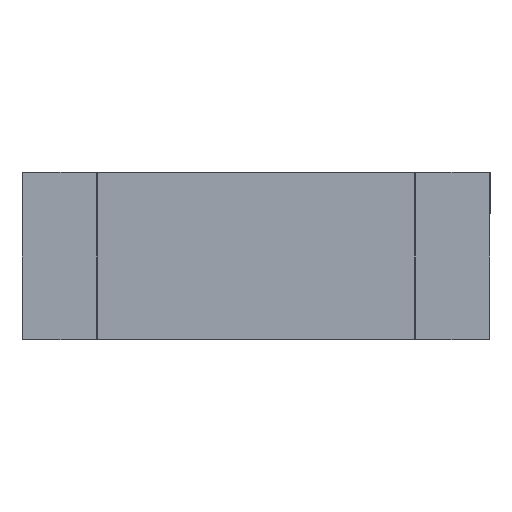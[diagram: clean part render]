
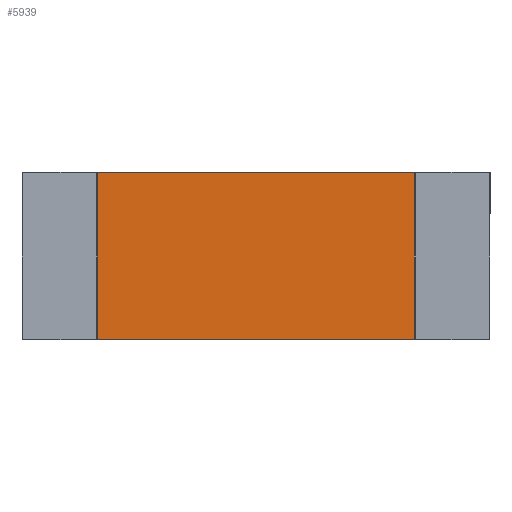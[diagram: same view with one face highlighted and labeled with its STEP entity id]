
A CAD part, top view. The second image highlights one B-rep face of the part: STEP entity #5939.
In plain terms, the highlighted planar face has unit normal (0, 0, 1).
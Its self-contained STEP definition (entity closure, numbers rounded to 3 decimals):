
#5654=CARTESIAN_POINT('',(-849.,-447.,38.0));
#5655=VERTEX_POINT('',#5654);
#5662=CARTESIAN_POINT('',(-849.,447.,38.0));
#5663=VERTEX_POINT('',#5662);
#5664=CARTESIAN_POINT('',(-849.,-447.,38.0));
#5665=DIRECTION('',(0.0,1.0,0.0));
#5666=VECTOR('',#5665,894.);
#5667=LINE('',#5664,#5666);
#5668=EDGE_CURVE('',#5655,#5663,#5667,.T.);
#5685=CARTESIAN_POINT('',(-847.,449.,38.0));
#5686=VERTEX_POINT('',#5685);
#5695=CARTESIAN_POINT('',(-847.,447.,38.0));
#5696=DIRECTION('',(0.0,0.0,-1.0));
#5697=DIRECTION('',(-0.707,0.707,0.0));
#5698=AXIS2_PLACEMENT_3D('',#5695,#5696,#5697);
#5699=CIRCLE('',#5698,2.);
#5700=EDGE_CURVE('',#5663,#5686,#5699,.T.);
#5710=CARTESIAN_POINT('',(847.,449.0,38.0));
#5711=VERTEX_POINT('',#5710);
#5720=CARTESIAN_POINT('',(-847.,449.,38.0));
#5721=DIRECTION('',(1.0,0.0,0.0));
#5722=VECTOR('',#5721,1694.0);
#5723=LINE('',#5720,#5722);
#5724=EDGE_CURVE('',#5686,#5711,#5723,.T.);
#5734=CARTESIAN_POINT('',(849.,447.0,38.0));
#5735=VERTEX_POINT('',#5734);
#5744=CARTESIAN_POINT('',(847.,447.0,38.0));
#5745=DIRECTION('',(0.0,0.0,-1.0));
#5746=DIRECTION('',(0.707,0.707,0.0));
#5747=AXIS2_PLACEMENT_3D('',#5744,#5745,#5746);
#5748=CIRCLE('',#5747,2.);
#5749=EDGE_CURVE('',#5711,#5735,#5748,.T.);
#5759=CARTESIAN_POINT('',(849.,-447.,38.0));
#5760=VERTEX_POINT('',#5759);
#5776=CARTESIAN_POINT('',(849.,447.0,38.0));
#5777=DIRECTION('',(0.0,-1.0,0.0));
#5778=VECTOR('',#5777,894.0);
#5779=LINE('',#5776,#5778);
#5780=EDGE_CURVE('',#5735,#5760,#5779,.T.);
#5790=CARTESIAN_POINT('',(847.,-449.,38.0));
#5791=VERTEX_POINT('',#5790);
#5808=CARTESIAN_POINT('',(847.,-447.0,38.0));
#5809=DIRECTION('',(0.0,0.0,-1.0));
#5810=DIRECTION('',(0.707,-0.707,0.0));
#5811=AXIS2_PLACEMENT_3D('',#5808,#5809,#5810);
#5812=CIRCLE('',#5811,2.);
#5813=EDGE_CURVE('',#5760,#5791,#5812,.T.);
#5823=CARTESIAN_POINT('',(-847.,-449.,38.0));
#5824=VERTEX_POINT('',#5823);
#5840=CARTESIAN_POINT('',(847.,-449.,38.0));
#5841=DIRECTION('',(-1.0,0.0,0.0));
#5842=VECTOR('',#5841,1694.0);
#5843=LINE('',#5840,#5842);
#5844=EDGE_CURVE('',#5791,#5824,#5843,.T.);
#5863=CARTESIAN_POINT('',(-847.,-447.,38.0));
#5864=DIRECTION('',(0.0,0.0,-1.0));
#5865=DIRECTION('',(-0.707,-0.707,0.0));
#5866=AXIS2_PLACEMENT_3D('',#5863,#5864,#5865);
#5867=CIRCLE('',#5866,2.);
#5868=EDGE_CURVE('',#5824,#5655,#5867,.T.);
#5924=CARTESIAN_POINT('',(0.,0.,38.0));
#5925=DIRECTION('',(0.0,0.0,1.0));
#5926=DIRECTION('',(0.0,-1.0,0.0));
#5927=AXIS2_PLACEMENT_3D('',#5924,#5925,#5926);
#5928=PLANE('',#5927);
#5929=ORIENTED_EDGE('',*,*,#5668,.F.);
#5930=ORIENTED_EDGE('',*,*,#5868,.F.);
#5931=ORIENTED_EDGE('',*,*,#5844,.F.);
#5932=ORIENTED_EDGE('',*,*,#5813,.F.);
#5933=ORIENTED_EDGE('',*,*,#5780,.F.);
#5934=ORIENTED_EDGE('',*,*,#5749,.F.);
#5935=ORIENTED_EDGE('',*,*,#5724,.F.);
#5936=ORIENTED_EDGE('',*,*,#5700,.F.);
#5937=EDGE_LOOP('',(#5929,#5930,#5931,#5932,#5933,#5934,#5935,#5936));
#5938=FACE_OUTER_BOUND('',#5937,.T.);
#5939=ADVANCED_FACE('',(#5938),#5928,.T.);
